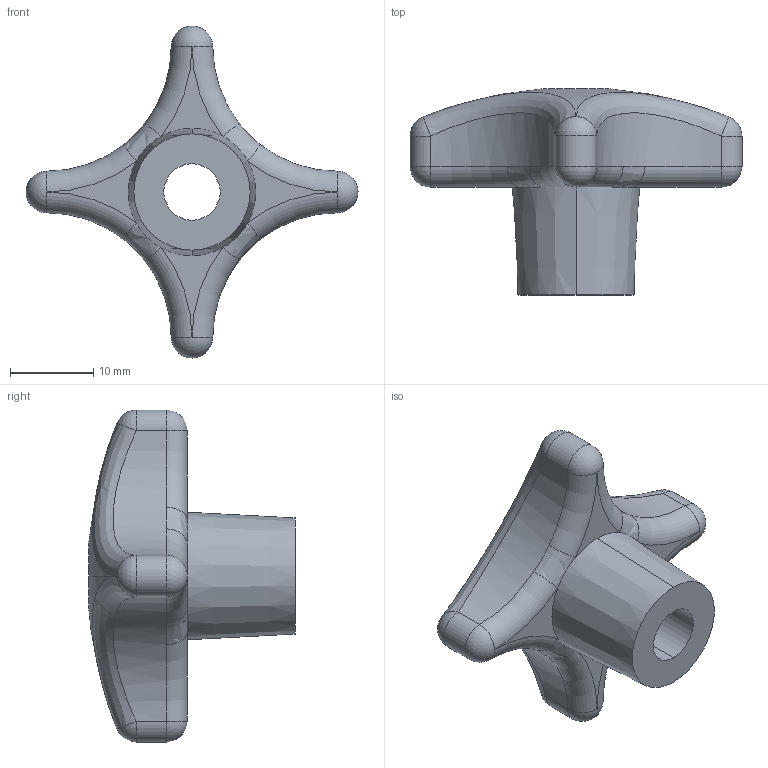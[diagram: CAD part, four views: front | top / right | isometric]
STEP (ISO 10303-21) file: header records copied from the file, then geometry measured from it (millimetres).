
FILE_DESCRIPTION (( 'STEP AP203' ), '1' );
FILE_NAME ('7000.W340.step', '2010-01-29T17:37:30', ( 'Wixroyd' ), ( 'Wixroyd' ), 'SwSTEP 2.0', 'SolidWorks 2009', '' );
FILE_SCHEMA (( 'CONFIG_CONTROL_DESIGN' ));
Length unit declared in the file: millimetre
Products named in the file (1): 7000.W340
Bounding box: 40 x 24.82 x 40 mm (x, y, z)
Volume: 6830.4 mm3; surface area: 3191.1 mm2
Topology: 1 solids, 1 shells, 47 faces, 105 edges, 56 vertices
Faces by surface type: cylinder 13, sphere 10, torus 8, bspline 8, plane 6, cone 2
Entity records: 4462 total; most frequent: CARTESIAN_POINT 3357, DIRECTION 243, ORIENTED_EDGE 202, AXIS2_PLACEMENT_3D 114, EDGE_CURVE 101, CIRCLE 74, VERTEX_POINT 56, EDGE_LOOP 49
